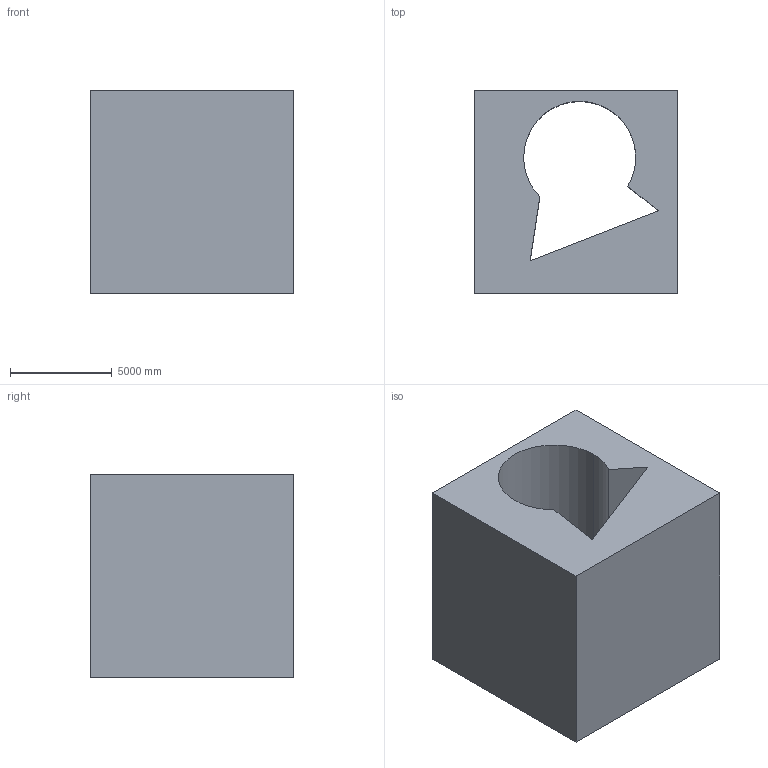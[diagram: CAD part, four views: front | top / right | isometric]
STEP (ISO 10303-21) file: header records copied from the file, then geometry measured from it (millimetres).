
FILE_DESCRIPTION (( 'STEP AP203' ), '1' );
FILE_NAME ('1001.STEP', '2022-08-18T12:22:36', ( 'user' ), ( '' ), 'SwSTEP 2.0', 'SolidWorks 2021', '' );
FILE_SCHEMA (( 'CONFIG_CONTROL_DESIGN' ));
Length unit declared in the file: centimetre
Products named in the file (1): 1001
Bounding box: 10000 x 10000 x 10000 mm (x, y, z)
Volume: 670179727552.1 mm3; surface area: 775966914.4 mm2
Topology: 1 solids, 1 shells, 12 faces, 30 edges, 20 vertices
Faces by surface type: plane 9, cylinder 3
Entity records: 441 total; most frequent: CARTESIAN_POINT 63, DIRECTION 62, ORIENTED_EDGE 60, EDGE_CURVE 30, LINE 24, VECTOR 24, VERTEX_POINT 20, AXIS2_PLACEMENT_3D 19
